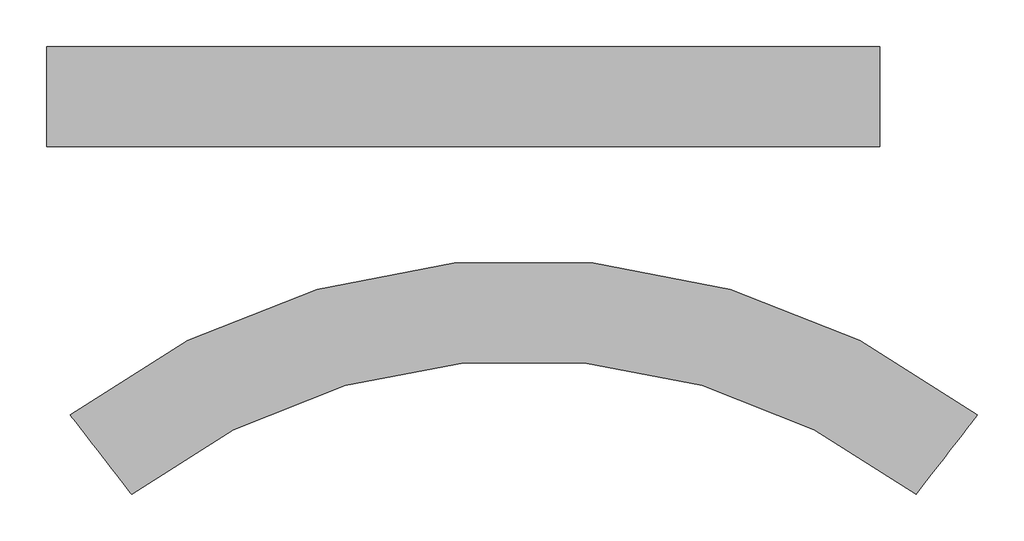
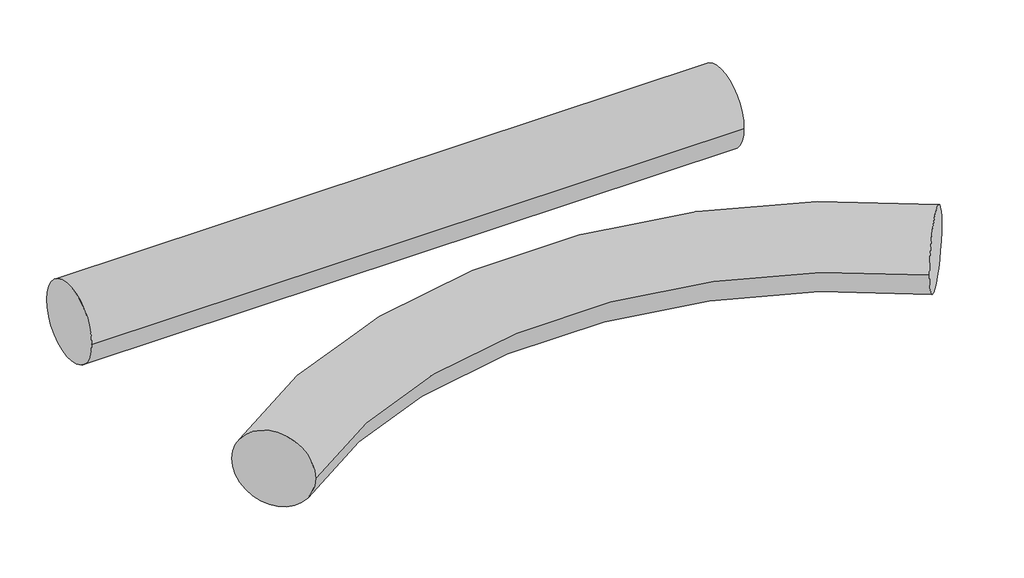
# One storey: 2 proxies.
"""IFC4 building model written with IfcOpenShell, lengths in millimetres."""

from ifc_helpers import new_model, si_unit, origin, place, context, project, spatial, transform, mapped, element, save
from components import curved_curved_8e5862ca, straight_straight_62cc420e

model = new_model("IFC4")

# Units and contexts
model_context = context("Model", 3, world=origin())
ifc_project = project(units=[si_unit("LENGTHUNIT", "METRE", prefix="MILLI")], contexts=[model_context])

# Site, building, storey
site = spatial("IfcSite", under=ifc_project)
building = spatial("IfcBuilding", under=site)
storey = spatial("IfcBuildingStorey", under=building, Name="T.O. Fnd. Wall", Elevation=-300.0)

# Proxies
placement = place(None, origin())
curved_curved_shape = curved_curved_8e5862ca(model_context)
element("IfcBuildingElementProxy", 1, Name="Curved : Curved", ObjectType="Curved : Curved", at=placement, inside=storey, context=model_context, shape_type="MappedRepresentation", body=[
    mapped(curved_curved_shape, transform((0.0, 0.0, 0.0), x_axis=(1.0, 0.0, 0.0), y_axis=(0.0, 1.0, 0.0), z_axis=(0.0, 0.0, 1.0))),
])
straight_straight_shape = straight_straight_62cc420e(model_context)
element("IfcBuildingElementProxy", 2, Name="Straight : Straight", ObjectType="Straight : Straight", at=placement, inside=storey, context=model_context, shape_type="MappedRepresentation", body=[
    mapped(straight_straight_shape, transform((0.0, 0.0, 0.0), x_axis=(1.0, 0.0, 0.0), y_axis=(0.0, 1.0, 0.0), z_axis=(0.0, 0.0, 1.0))),
])

save(model, "model.ifc")
